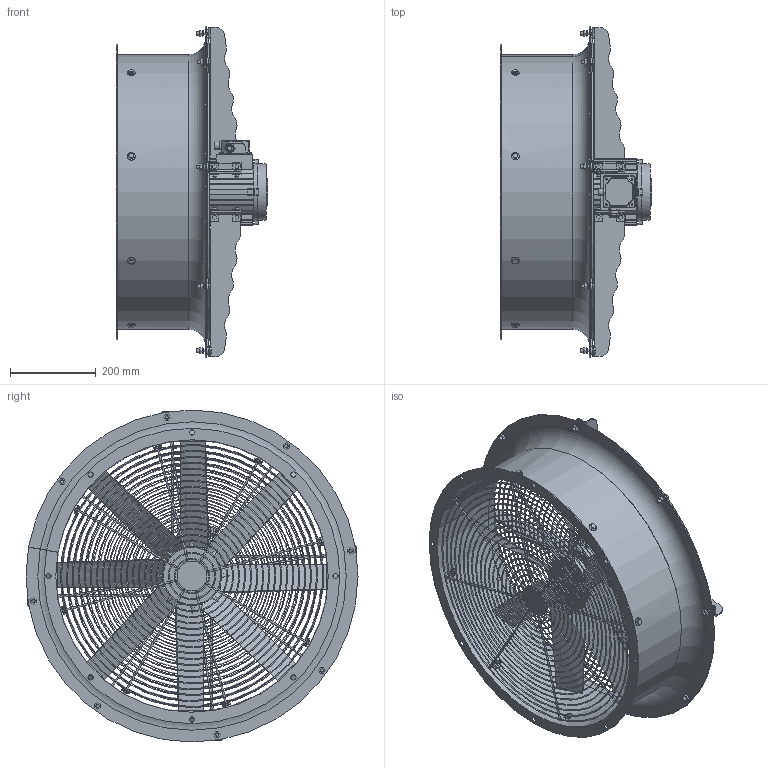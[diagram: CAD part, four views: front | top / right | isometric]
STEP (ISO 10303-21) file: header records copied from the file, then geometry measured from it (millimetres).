
FILE_DESCRIPTION (( 'STEP AP203' ), '1' );
FILE_NAME ('20.16997 VAAZ C 630 M80 B30.STEP', '2020-12-08T06:24:44', ( '' ), ( '' ), 'SwSTEP 2.0', 'SolidWorks 2020', '' );
FILE_SCHEMA (( 'CONFIG_CONTROL_DESIGN' ));
Length unit declared in the file: millimetre
Products named in the file (11): 1576500_Nosaè za VAAZ C 630 M80 s rupom _¬.0361; 20.16997 VAAZ C 630 M80 B30; 124806 Zaštitna rešetka ispušna_inox; 147058 rev1 Kuciste VAAZ C 630; Vijèani spoj M8x25; Vijèani spoj M8x30; Vijèani spoj M5x14; Vijèani spoj M6x16; 141423 Zašt rešetka usisna VAAZ C 630 M80_inox A2; 5AZ 80 B30  BVK SS; Impeler pojednostavljeno
Assembly tree (41 placements, depth 2):
  20.16997 VAAZ C 630 M80 B30
    147058 rev1 Kuciste VAAZ C 630
    141423 Zašt rešetka usisna VAAZ C 630 M80_inox A2
    5AZ 80 B30  BVK SS
    1576500_Nosaè za VAAZ C 630 M80 s rupom _¬.0361  x4
    124806 Zaštitna rešetka ispušna_inox
    Vijèani spoj M6x16  x8
    Vijèani spoj M8x30  x4
    Vijèani spoj M8x25  x4
    Vijèani spoj M5x14  x16
    Impeler pojednostavljeno
Bounding box: 353 x 775 x 775 mm (x, y, z)
Volume: 3537216 mm3; surface area: 2558213.8 mm2
Topology: 138 solids, 138 shells, 2021 faces, 5028 edges, 3327 vertices
Faces by surface type: plane 1284, cylinder 563, torus 98, bspline 48, cone 28
Full cylindrical faces by diameter (mm): 4 x24, 4.5 x4, 5 x49, 6 x60, 6.4 x1, 7 x8, 8 x48, 9 x8, 10 x1, 10.5 x1, 12 x33, 17 x1, 18 x8, 18.5 x1, 18.6 x1, 19 x1, 19.6 x2, 19.9 x1, 20 x5, 23 x2, 24.9 x2, 25.04 x1, 35 x1, 55.714 x2, 68.8 x2, 70 x1, 120.4 x2, 124 x1, 134 x3
Entity records: 47432 total; most frequent: CARTESIAN_POINT 17948, ORIENTED_EDGE 5406, DIRECTION 5337, EDGE_CURVE 2703, VERTEX_POINT 1939, AXIS2_PLACEMENT_3D 1925, EDGE_LOOP 1818, VECTOR 1487
